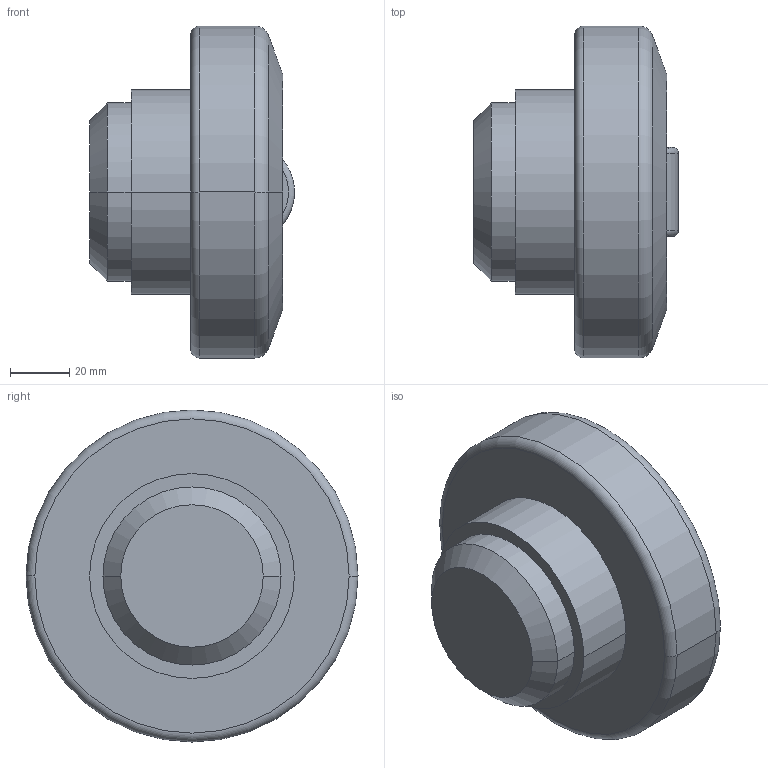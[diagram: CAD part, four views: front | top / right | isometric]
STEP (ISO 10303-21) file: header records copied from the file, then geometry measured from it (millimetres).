
FILE_DESCRIPTION (( 'STEP AP214' ), '1' );
FILE_NAME ('3D 4.0461 PR.STEP', '2013-12-09T09:17:22', ( 'usuario' ), ( 'Hewlett-Packard Company' ), 'SwSTEP 2.0', 'SolidWorks 2017', '' );
FILE_SCHEMA (( 'AUTOMOTIVE_DESIGN' ));
Length unit declared in the file: millimetre
Products named in the file (1): 3D  4.0461 PR
Bounding box: 68.95 x 111.8 x 111.8 mm (x, y, z)
Volume: 400547.8 mm3; surface area: 34381 mm2
Topology: 1 solids, 1 shells, 23 faces, 46 edges, 28 vertices
Faces by surface type: cylinder 7, torus 6, plane 6, cone 4
Entity records: 682 total; most frequent: CARTESIAN_POINT 150, DIRECTION 118, ORIENTED_EDGE 92, AXIS2_PLACEMENT_3D 52, EDGE_CURVE 46, VERTEX_POINT 28, CIRCLE 28, EDGE_LOOP 26
